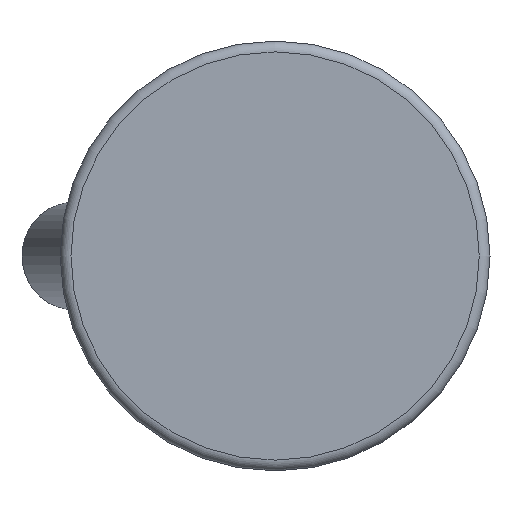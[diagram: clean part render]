
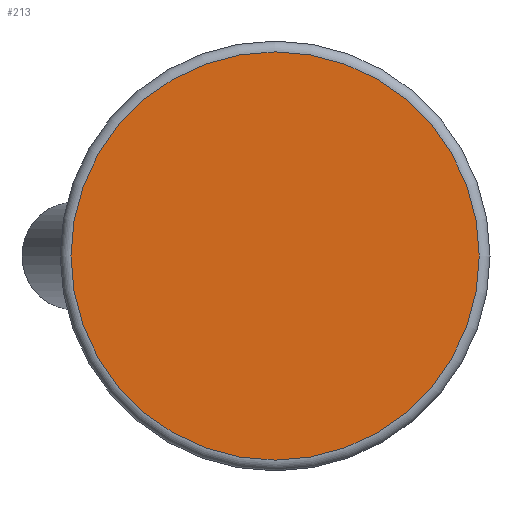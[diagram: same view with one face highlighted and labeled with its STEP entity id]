
A CAD part, front view. The second image highlights one B-rep face of the part: STEP entity #213.
In plain terms, the highlighted planar face has unit normal (0, -1, 0).
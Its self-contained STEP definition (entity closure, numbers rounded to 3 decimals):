
#213 = ADVANCED_FACE( '', ( #407 ), #408, .F. );
#407 = FACE_OUTER_BOUND( '', #589, .T. );
#408 = PLANE( '', #590 );
#589 = EDGE_LOOP( '', ( #927 ) );
#590 = AXIS2_PLACEMENT_3D( '', #928, #929, #930 );
#927 = ORIENTED_EDGE( '', *, *, #1132, .T. );
#928 = CARTESIAN_POINT( '', ( 19., 0., 0. ) );
#929 = DIRECTION( '', ( 0., 1., 0. ) );
#930 = DIRECTION( '', ( 0., 0., 1. ) );
#1132 = EDGE_CURVE( '', #1325, #1325, #1326, .T. );
#1325 = VERTEX_POINT( '', #1790 );
#1326 = CIRCLE( '', #1791, 19. );
#1790 = CARTESIAN_POINT( '', ( 0., 0., -19. ) );
#1791 = AXIS2_PLACEMENT_3D( '', #1921, #1922, #1923 );
#1921 = CARTESIAN_POINT( '', ( 0., 0., 0. ) );
#1922 = DIRECTION( '', ( 0., -1., 0. ) );
#1923 = DIRECTION( '', ( 0., 0., -1. ) );
